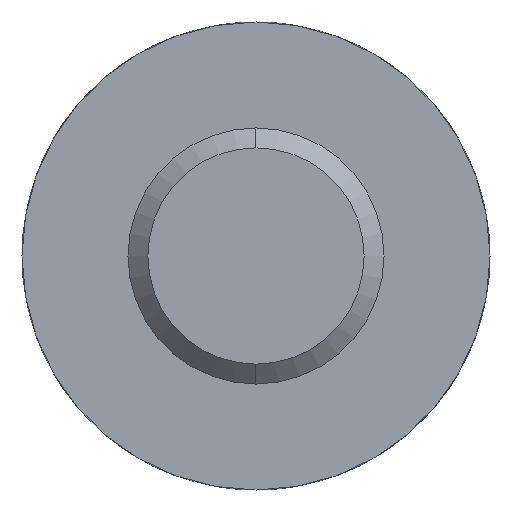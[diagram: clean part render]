
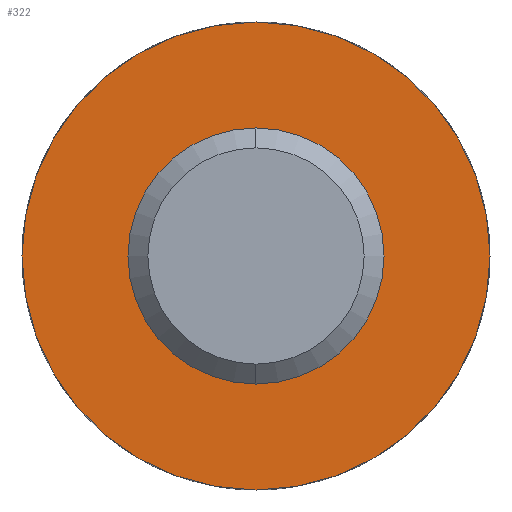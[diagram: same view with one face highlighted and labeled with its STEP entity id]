
A CAD part, left-side view. The second image highlights one B-rep face of the part: STEP entity #322.
In plain terms, the highlighted planar face has unit normal (-1, 0, 0).
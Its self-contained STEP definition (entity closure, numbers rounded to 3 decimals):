
#59 = DIRECTION ( 'NONE',  ( 0., 0., 1. ) ) ;
#74 = ORIENTED_EDGE ( 'NONE', *, *, #1701, .T. ) ;
#77 = ORIENTED_EDGE ( 'NONE', *, *, #1482, .T. ) ;
#138 = CARTESIAN_POINT ( 'NONE',  ( -5.045, 0., 1.25 ) ) ;
#284 = ORIENTED_EDGE ( 'NONE', *, *, #1711, .F. ) ;
#322 = ADVANCED_FACE ( 'NONE', ( #512, #505 ), #1422, .F. ) ;
#347 = AXIS2_PLACEMENT_3D ( 'NONE', #1433, #1442, #1415 ) ;
#365 = ORIENTED_EDGE ( 'NONE', *, *, #1384, .F. ) ;
#460 = DIRECTION ( 'NONE',  ( -1., 0., 0. ) ) ;
#501 = CARTESIAN_POINT ( 'NONE',  ( -5.045, 0., 0. ) ) ;
#505 = FACE_OUTER_BOUND ( 'NONE', #1895, .T. ) ;
#512 = FACE_BOUND ( 'NONE', #1766, .T. ) ;
#527 = CARTESIAN_POINT ( 'NONE',  ( -5.045, 0., 0. ) ) ;
#528 = DIRECTION ( 'NONE',  ( -1., 0., 0. ) ) ;
#534 = DIRECTION ( 'NONE',  ( -1., 0., 0. ) ) ;
#538 = DIRECTION ( 'NONE',  ( 0., 0., 1. ) ) ;
#551 = CARTESIAN_POINT ( 'NONE',  ( -5.045, 0., 0. ) ) ;
#588 = CARTESIAN_POINT ( 'NONE',  ( -5.045, 0., -1.25 ) ) ;
#626 = DIRECTION ( 'NONE',  ( 0., 0., 1. ) ) ;
#711 = CARTESIAN_POINT ( 'NONE',  ( -5.045, 0., -2.65 ) ) ;
#914 = VERTEX_POINT ( 'NONE', #588 ) ;
#953 = CARTESIAN_POINT ( 'NONE',  ( -5.045, 0., 0. ) ) ;
#963 = DIRECTION ( 'NONE',  ( -1., 0., 0. ) ) ;
#966 = DIRECTION ( 'NONE',  ( 0., 0., 1. ) ) ;
#1095 = CARTESIAN_POINT ( 'NONE',  ( -5.045, 0., 2.65 ) ) ;
#1168 = CIRCLE ( 'NONE', #1585, 2.65 ) ;
#1213 = VERTEX_POINT ( 'NONE', #138 ) ;
#1364 = AXIS2_PLACEMENT_3D ( 'NONE', #551, #528, #626 ) ;
#1382 = AXIS2_PLACEMENT_3D ( 'NONE', #527, #534, #538 ) ;
#1384 = EDGE_CURVE ( 'NONE', #1213, #914, #1747, .T. ) ;
#1415 = DIRECTION ( 'NONE',  ( 0., 0., -1. ) ) ;
#1422 = PLANE ( 'NONE',  #347 ) ;
#1424 = CIRCLE ( 'NONE', #1364, 1.25 ) ;
#1433 = CARTESIAN_POINT ( 'NONE',  ( -5.045, 2.65, 0. ) ) ;
#1442 = DIRECTION ( 'NONE',  ( 1., 0., 0. ) ) ;
#1454 = CIRCLE ( 'NONE', #1382, 2.65 ) ;
#1482 = EDGE_CURVE ( 'NONE', #1702, #1837, #1168, .T. ) ;
#1570 = AXIS2_PLACEMENT_3D ( 'NONE', #501, #460, #59 ) ;
#1585 = AXIS2_PLACEMENT_3D ( 'NONE', #953, #963, #966 ) ;
#1701 = EDGE_CURVE ( 'NONE', #1837, #1702, #1454, .T. ) ;
#1702 = VERTEX_POINT ( 'NONE', #1095 ) ;
#1711 = EDGE_CURVE ( 'NONE', #914, #1213, #1424, .T. ) ;
#1747 = CIRCLE ( 'NONE', #1570, 1.25 ) ;
#1766 = EDGE_LOOP ( 'NONE', ( #365, #284 ) ) ;
#1837 = VERTEX_POINT ( 'NONE', #711 ) ;
#1895 = EDGE_LOOP ( 'NONE', ( #77, #74 ) ) ;
